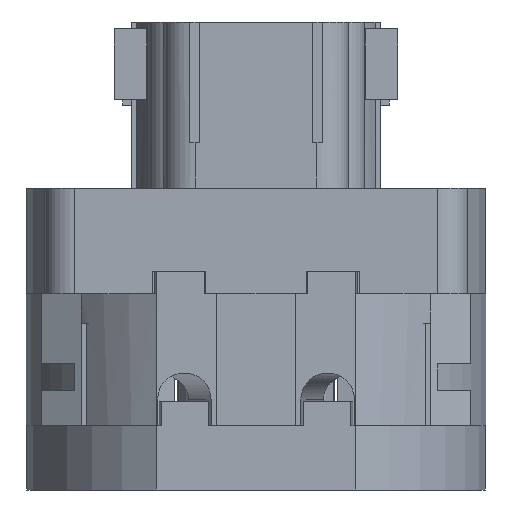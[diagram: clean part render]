
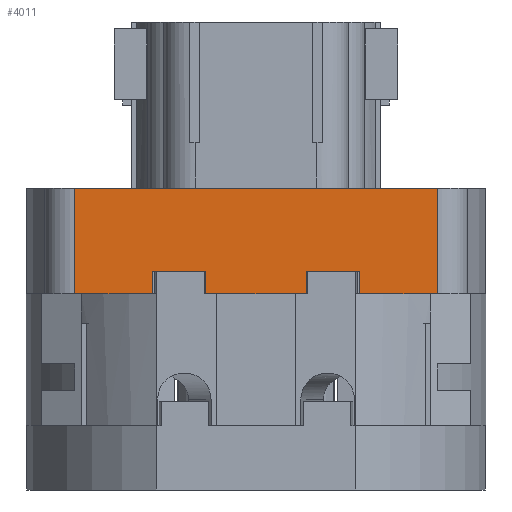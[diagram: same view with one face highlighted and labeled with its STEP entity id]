
A CAD part, left-side view. The second image highlights one B-rep face of the part: STEP entity #4011.
In plain terms, the highlighted planar face has unit normal (-1, 0, 0).
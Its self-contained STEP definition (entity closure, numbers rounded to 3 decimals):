
#38=DIRECTION('',(0.,-1.,0.));
#39=VECTOR('',#38,13.3);
#40=CARTESIAN_POINT('',(-28.,6.65,0.));
#41=LINE('',#40,#39);
#66=DIRECTION('',(0.,-1.,0.));
#67=VECTOR('',#66,10.25);
#68=CARTESIAN_POINT('',(-28.,-13.75,0.));
#69=LINE('',#68,#67);
#212=DIRECTION('',(0.,-1.,0.));
#213=VECTOR('',#212,10.25);
#214=CARTESIAN_POINT('',(-28.,24.,0.));
#215=LINE('',#214,#213);
#267=DIRECTION('',(0.,1.,0.));
#268=VECTOR('',#267,7.1);
#269=CARTESIAN_POINT('',(-28.,-13.75,3.));
#270=LINE('',#269,#268);
#274=DIRECTION('',(0.,0.,1.));
#275=VECTOR('',#274,3.);
#276=CARTESIAN_POINT('',(-28.,-6.65,0.));
#277=LINE('',#276,#275);
#281=DIRECTION('',(0.,0.,1.));
#282=VECTOR('',#281,3.);
#283=CARTESIAN_POINT('',(-28.,6.65,0.));
#284=LINE('',#283,#282);
#288=DIRECTION('',(0.,1.,0.));
#289=VECTOR('',#288,7.1);
#290=CARTESIAN_POINT('',(-28.,6.65,3.));
#291=LINE('',#290,#289);
#295=DIRECTION('',(0.,0.,1.));
#296=VECTOR('',#295,3.);
#297=CARTESIAN_POINT('',(-28.,13.75,0.));
#298=LINE('',#297,#296);
#302=DIRECTION('',(0.,0.,1.));
#303=VECTOR('',#302,14.);
#304=CARTESIAN_POINT('',(-28.,24.,0.));
#305=LINE('',#304,#303);
#309=DIRECTION('',(0.,0.,1.));
#310=VECTOR('',#309,3.);
#311=CARTESIAN_POINT('',(-28.,-13.75,0.));
#312=LINE('',#311,#310);
#519=DIRECTION('',(0.,0.,1.));
#520=VECTOR('',#519,14.);
#521=CARTESIAN_POINT('',(-28.,-24.,0.));
#522=LINE('',#521,#520);
#609=DIRECTION('',(0.,-1.,0.));
#610=VECTOR('',#609,48.);
#611=CARTESIAN_POINT('',(-28.,24.,14.));
#612=LINE('',#611,#610);
#3288=CARTESIAN_POINT('',(-28.,24.,0.));
#3290=VERTEX_POINT('',#3288);
#3291=CARTESIAN_POINT('',(-28.,-24.,0.));
#3293=VERTEX_POINT('',#3291);
#3312=CARTESIAN_POINT('',(-28.,24.,14.));
#3314=VERTEX_POINT('',#3312);
#3315=CARTESIAN_POINT('',(-28.,-24.,14.));
#3316=VERTEX_POINT('',#3315);
#3763=CARTESIAN_POINT('',(-28.,13.75,0.));
#3765=VERTEX_POINT('',#3763);
#3769=CARTESIAN_POINT('',(-28.,6.65,0.));
#3770=VERTEX_POINT('',#3769);
#3771=CARTESIAN_POINT('',(-28.,-6.65,0.));
#3773=VERTEX_POINT('',#3771);
#3777=CARTESIAN_POINT('',(-28.,-13.75,0.));
#3778=VERTEX_POINT('',#3777);
#3795=CARTESIAN_POINT('',(-28.,-13.75,3.));
#3796=CARTESIAN_POINT('',(-28.,-6.65,3.));
#3797=VERTEX_POINT('',#3795);
#3798=VERTEX_POINT('',#3796);
#3799=CARTESIAN_POINT('',(-28.,6.65,3.));
#3800=CARTESIAN_POINT('',(-28.,13.75,3.));
#3801=VERTEX_POINT('',#3799);
#3802=VERTEX_POINT('',#3800);
#3984=CARTESIAN_POINT('',(-28.,24.,0.));
#3985=DIRECTION('',(-1.,0.,0.));
#3986=DIRECTION('',(0.,-1.,0.));
#3987=AXIS2_PLACEMENT_3D('',#3984,#3985,#3986);
#3988=PLANE('',#3987);
#3990=ORIENTED_EDGE('',*,*,#3989,.T.);
#3992=ORIENTED_EDGE('',*,*,#3991,.F.);
#3993=ORIENTED_EDGE('',*,*,#3898,.F.);
#3995=ORIENTED_EDGE('',*,*,#3994,.T.);
#3997=ORIENTED_EDGE('',*,*,#3996,.T.);
#3998=ORIENTED_EDGE('',*,*,#3975,.F.);
#3999=ORIENTED_EDGE('',*,*,#3946,.F.);
#4001=ORIENTED_EDGE('',*,*,#4000,.T.);
#4003=ORIENTED_EDGE('',*,*,#4002,.T.);
#4005=ORIENTED_EDGE('',*,*,#4004,.F.);
#4006=ORIENTED_EDGE('',*,*,#3906,.F.);
#4008=ORIENTED_EDGE('',*,*,#4007,.T.);
#4009=EDGE_LOOP('',(#3990,#3992,#3993,#3995,#3997,#3998,#3999,#4001,#4003,#4005,
#4006,#4008));
#4010=FACE_OUTER_BOUND('',#4009,.F.);
#3898=EDGE_CURVE('',#3770,#3773,#41,.T.);
#3906=EDGE_CURVE('',#3778,#3293,#69,.T.);
#3946=EDGE_CURVE('',#3290,#3765,#215,.T.);
#3975=EDGE_CURVE('',#3765,#3802,#298,.T.);
#3989=EDGE_CURVE('',#3797,#3798,#270,.T.);
#3991=EDGE_CURVE('',#3773,#3798,#277,.T.);
#3994=EDGE_CURVE('',#3770,#3801,#284,.T.);
#3996=EDGE_CURVE('',#3801,#3802,#291,.T.);
#4000=EDGE_CURVE('',#3290,#3314,#305,.T.);
#4002=EDGE_CURVE('',#3314,#3316,#612,.T.);
#4004=EDGE_CURVE('',#3293,#3316,#522,.T.);
#4007=EDGE_CURVE('',#3778,#3797,#312,.T.);
#4011=ADVANCED_FACE('',(#4010),#3988,.T.);
